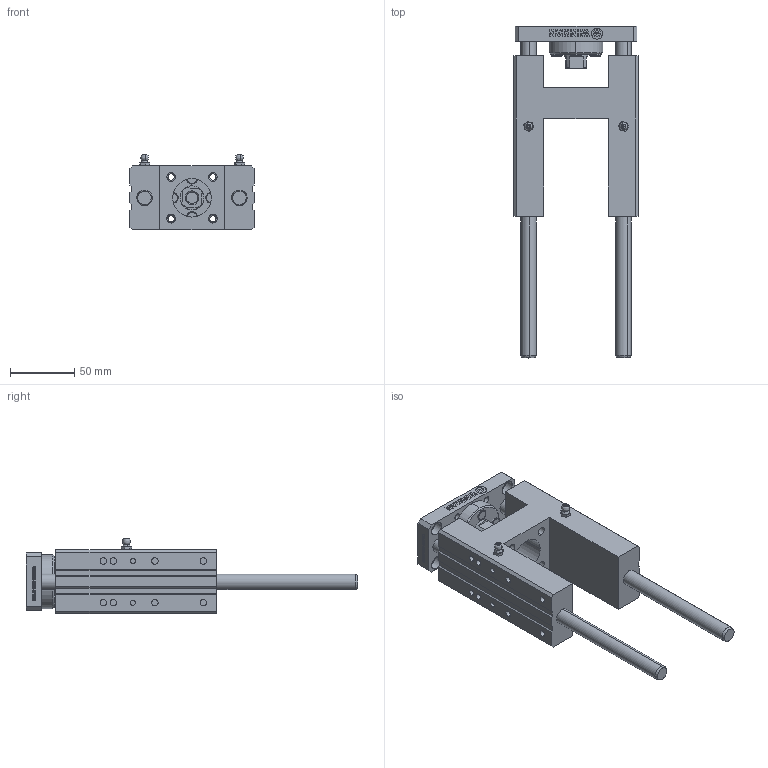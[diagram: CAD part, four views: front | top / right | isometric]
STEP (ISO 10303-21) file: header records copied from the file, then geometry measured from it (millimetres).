
FILE_DESCRIPTION (( 'STEP AP214' ), '1' );
FILE_NAME ('WHCR-032-0100 (3D).STEP', '2018-11-28T12:41:00', ( 'Hidtek' ), ( '' ), 'SwSTEP 2.0', 'SolidWorks 2016', '' );
FILE_SCHEMA (( 'AUTOMOTIVE_DESIGN' ));
Length unit declared in the file: millimetre
Products named in the file (4): Group1^WHCR-032-0100 (3D); Group3^WHCR-032-0100 (3D); Group2^WHCR-032-0100 (3D); WHCR-032-0100 (3D)
Assembly tree (3 placements, depth 2):
  WHCR-032-0100 (3D)
    Group1^WHCR-032-0100 (3D)
    Group2^WHCR-032-0100 (3D)
    Group3^WHCR-032-0100 (3D)
Bounding box: 97 x 259 x 59.1 mm (x, y, z)
Volume: 411887.1 mm3; surface area: 103455.4 mm2
Topology: 14 solids, 14 shells, 550 faces, 1368 edges, 896 vertices
Faces by surface type: plane 288, cylinder 130, bspline 102, cone 30
Entity records: 23067 total; most frequent: CARTESIAN_POINT 8608, ORIENTED_EDGE 2704, DIRECTION 2364, EDGE_CURVE 1352, VERTEX_POINT 896, VECTOR 828, LINE 828, AXIS2_PLACEMENT_3D 768
